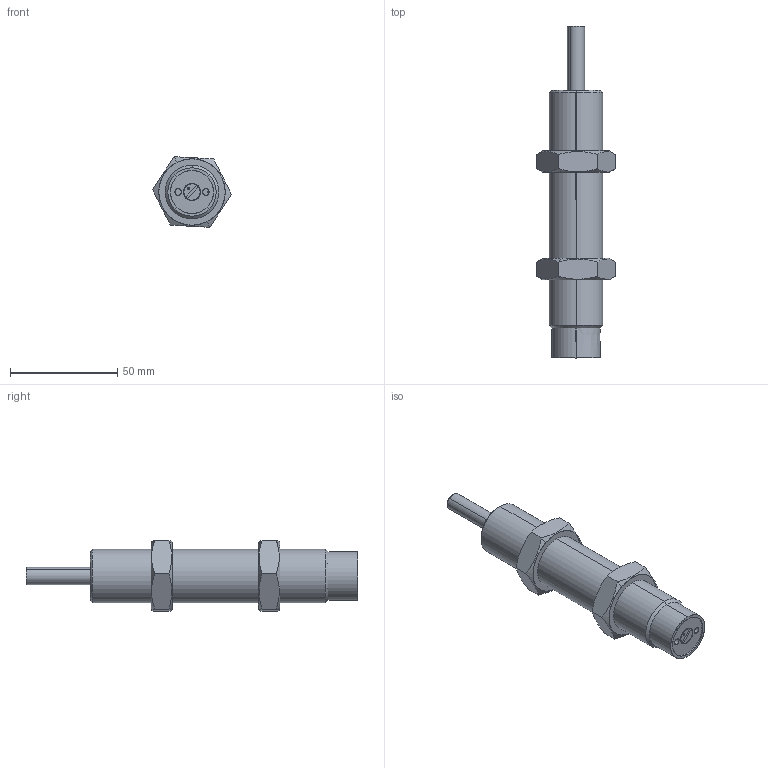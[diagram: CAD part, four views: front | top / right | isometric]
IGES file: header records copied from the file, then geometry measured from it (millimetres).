
Start section: SolidWorks IGES file using analytic representation for surfaces
Bounding box: 36.89 x 155 x 32.98 mm (x, y, z)
Surface area: 16760.4 mm2 (no closed solid volume)
Topology: 0 solids, 0 shells, 83 faces, 1774 edges, 1772 vertices
Faces by surface type: revolution 44, bspline 39
